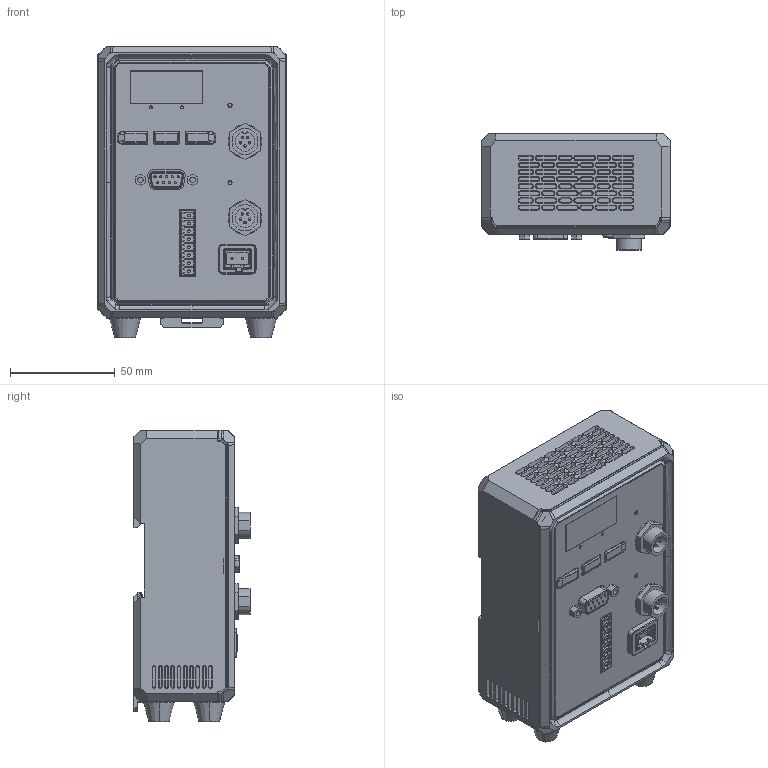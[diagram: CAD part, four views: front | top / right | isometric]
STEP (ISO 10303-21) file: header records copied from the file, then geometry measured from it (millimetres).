
FILE_DESCRIPTION((''),'2;1');
FILE_NAME('LS-LE201-30W5-2FD.stp','2024-04-07T10:52:11',('LumaSpec Vision'),('LumaSpec Vision'),'LumaSpec Vision','LumaSpec Vision','');
FILE_SCHEMA(('CONFIG_CONTROL_DESIGN'));
Products named in the file (1): LS-LE201-30W5-2FD
Bounding box: 90.08 x 55.5 x 139.54 mm (x, y, z)
Volume: 516059.4 mm3; surface area: 62665.4 mm2
Topology: 1 solids, 9 shells, 2541 faces, 6962 edges, 4665 vertices
Faces by surface type: plane 1361, cylinder 539, cone 307, bspline 187, torus 83, extrusion 57, sphere 7
Entity records: 97401 total; most frequent: CARTESIAN_POINT 33293, ORIENTED_EDGE 13906, DIRECTION 12600, EDGE_CURVE 6953, VERTEX_POINT 4665, AXIS2_PLACEMENT_3D 4246, VECTOR 4108, LINE 4051
